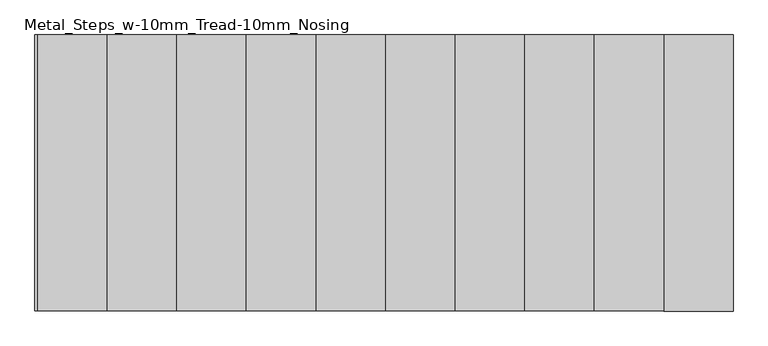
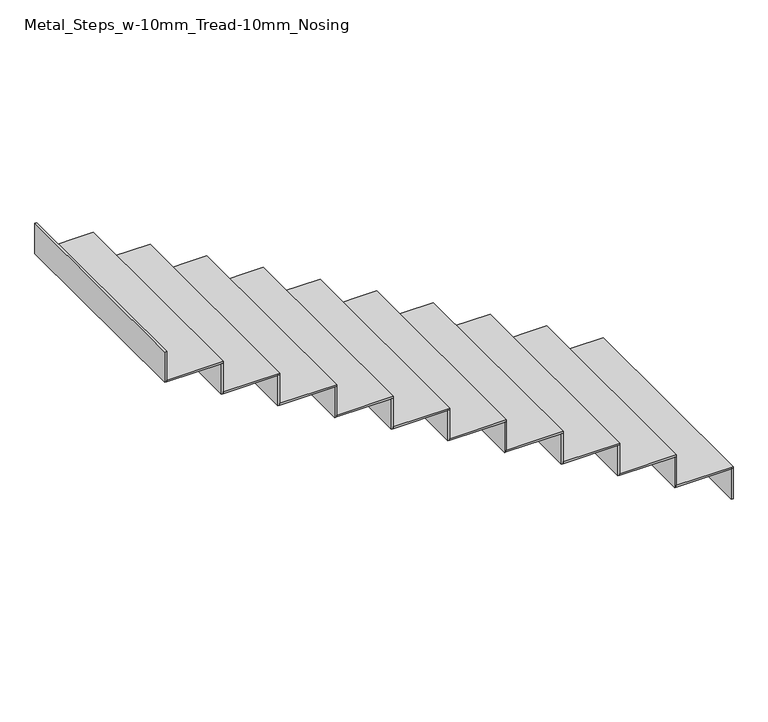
"""IFC4 building model written with IfcOpenShell, lengths in millimetres: stair flight geometry, Metal_Steps_w-10mm_Tread-10mm_Nosing."""

from ifc_helpers import new_model, si_unit, frame, origin, place, context, project, spatial, polyline, outline, extrude, source, transform, mapped, element, save


def metal_steps_w_10mm_tread_10mm_nosing_cab76adb(model_context):
    return source(origin(), model_context, "Body", "SweptSolid", [
        extrude(outline(polyline([(2188.5041438, 12254.6238126), (2198.5041438, 12254.6238126), (2198.5041438, 11064.6238126), (2188.5041438, 11064.6238126), (2188.5041438, 12254.6238126)])), frame((0.0, 0.0, 9375.0), z_axis=(0.0, 0.0, 1.0), x_axis=(1.0, 0.0, 0.0)), (0.0, 0.0, 1.0), 170.4545455),
        extrude(outline(polyline([(1898.5041438, 11064.6238126), (1898.5041438, 12254.6238126), (2198.5041438, 12254.6238126), (2198.5041438, 11064.6238126), (1898.5041438, 11064.6238126)])), frame((0.0, 0.0, 9545.4545455), z_axis=(0.0, 0.0, 1.0), x_axis=(1.0, 0.0, 0.0)), (0.0, 0.0, 1.0), 10.0),
        extrude(outline(polyline([(1888.5041438, 12254.6238126), (1898.5041438, 12254.6238126), (1898.5041438, 11064.6238126), (1888.5041438, 11064.6238126), (1888.5041438, 12254.6238126)])), frame((0.0, 0.0, 9545.4545455), z_axis=(0.0, 0.0, 1.0), x_axis=(1.0, 0.0, 0.0)), (0.0, 0.0, 1.0), 170.4545455),
        extrude(outline(polyline([(1598.5041438, 11064.6238126), (1598.5041438, 12254.6238126), (1898.5041438, 12254.6238126), (1898.5041438, 11064.6238126), (1598.5041438, 11064.6238126)])), frame((0.0, 0.0, 9715.9090909), z_axis=(0.0, 0.0, 1.0), x_axis=(1.0, 0.0, 0.0)), (0.0, 0.0, 1.0), 10.0),
        extrude(outline(polyline([(1588.5041438, 12254.6238126), (1598.5041438, 12254.6238126), (1598.5041438, 11064.6238126), (1588.5041438, 11064.6238126), (1588.5041438, 12254.6238126)])), frame((0.0, 0.0, 9715.9090909), z_axis=(0.0, 0.0, 1.0), x_axis=(1.0, 0.0, 0.0)), (0.0, 0.0, 1.0), 170.4545455),
        extrude(outline(polyline([(1298.5041438, 11064.6238126), (1298.5041438, 12254.6238126), (1598.5041438, 12254.6238126), (1598.5041438, 11064.6238126), (1298.5041438, 11064.6238126)])), frame((0.0, 0.0, 9886.3636364), z_axis=(0.0, 0.0, 1.0), x_axis=(1.0, 0.0, 0.0)), (0.0, 0.0, 1.0), 10.0),
        extrude(outline(polyline([(1288.5041438, 12254.6238126), (1298.5041438, 12254.6238126), (1298.5041438, 11064.6238126), (1288.5041438, 11064.6238126), (1288.5041438, 12254.6238126)])), frame((0.0, 0.0, 9886.3636364), z_axis=(0.0, 0.0, 1.0), x_axis=(1.0, 0.0, 0.0)), (0.0, 0.0, 1.0), 170.4545455),
        extrude(outline(polyline([(998.5041438, 11064.6238126), (998.5041438, 12254.6238126), (1298.5041438, 12254.6238126), (1298.5041438, 11064.6238126), (998.5041438, 11064.6238126)])), frame((0.0, 0.0, 10056.8181818), z_axis=(0.0, 0.0, 1.0), x_axis=(1.0, 0.0, 0.0)), (0.0, 0.0, 1.0), 10.0),
        extrude(outline(polyline([(988.5041438, 12254.6238126), (998.5041438, 12254.6238126), (998.5041438, 11064.6238126), (988.5041438, 11064.6238126), (988.5041438, 12254.6238126)])), frame((0.0, 0.0, 10056.8181818), z_axis=(0.0, 0.0, 1.0), x_axis=(1.0, 0.0, 0.0)), (0.0, 0.0, 1.0), 170.4545455),
        extrude(outline(polyline([(698.5041438, 11064.6238126), (698.5041438, 12254.6238126), (998.5041438, 12254.6238126), (998.5041438, 11064.6238126), (698.5041438, 11064.6238126)])), frame((0.0, 0.0, 10227.2727273), z_axis=(0.0, 0.0, 1.0), x_axis=(1.0, 0.0, 0.0)), (0.0, 0.0, 1.0), 10.0),
        extrude(outline(polyline([(688.5041438, 12254.6238126), (698.5041438, 12254.6238126), (698.5041438, 11064.6238126), (688.5041438, 11064.6238126), (688.5041438, 12254.6238126)])), frame((0.0, 0.0, 10227.2727273), z_axis=(0.0, 0.0, 1.0), x_axis=(1.0, 0.0, 0.0)), (0.0, 0.0, 1.0), 170.4545455),
        extrude(outline(polyline([(398.5041438, 11064.6238126), (398.5041438, 12254.6238126), (698.5041438, 12254.6238126), (698.5041438, 11064.6238126), (398.5041438, 11064.6238126)])), frame((0.0, 0.0, 10397.7272727), z_axis=(0.0, 0.0, 1.0), x_axis=(1.0, 0.0, 0.0)), (0.0, 0.0, 1.0), 10.0),
        extrude(outline(polyline([(388.5041438, 12254.6238126), (398.5041438, 12254.6238126), (398.5041438, 11064.6238126), (388.5041438, 11064.6238126), (388.5041438, 12254.6238126)])), frame((0.0, 0.0, 10397.7272727), z_axis=(0.0, 0.0, 1.0), x_axis=(1.0, 0.0, 0.0)), (0.0, 0.0, 1.0), 170.4545455),
        extrude(outline(polyline([(98.5041438, 11064.6238126), (98.5041438, 12254.6238126), (398.5041438, 12254.6238126), (398.5041438, 11064.6238126), (98.5041438, 11064.6238126)])), frame((0.0, 0.0, 10568.1818182), z_axis=(0.0, 0.0, 1.0), x_axis=(1.0, 0.0, 0.0)), (0.0, 0.0, 1.0), 10.0),
        extrude(outline(polyline([(88.5041438, 12254.6238126), (98.5041438, 12254.6238126), (98.5041438, 11064.6238126), (88.5041438, 11064.6238126), (88.5041438, 12254.6238126)])), frame((0.0, 0.0, 10568.1818182), z_axis=(0.0, 0.0, 1.0), x_axis=(1.0, 0.0, 0.0)), (0.0, 0.0, 1.0), 170.4545455),
        extrude(outline(polyline([(-201.4958562, 11064.6238126), (-201.4958562, 12254.6238126), (98.5041438, 12254.6238126), (98.5041438, 11064.6238126), (-201.4958562, 11064.6238126)])), frame((0.0, 0.0, 10738.6363636), z_axis=(0.0, 0.0, 1.0), x_axis=(1.0, 0.0, 0.0)), (0.0, 0.0, 1.0), 10.0),
        extrude(outline(polyline([(-211.4958562, 12254.6238126), (-201.4958562, 12254.6238126), (-201.4958562, 11064.6238126), (-211.4958562, 11064.6238126), (-211.4958562, 12254.6238126)])), frame((0.0, 0.0, 10738.6363636), z_axis=(0.0, 0.0, 1.0), x_axis=(1.0, 0.0, 0.0)), (0.0, 0.0, 1.0), 170.4545455),
        extrude(outline(polyline([(-501.4958562, 11064.6238126), (-501.4958562, 12254.6238126), (-201.4958562, 12254.6238126), (-201.4958562, 11064.6238126), (-501.4958562, 11064.6238126)])), frame((0.0, 0.0, 10909.0909091), z_axis=(0.0, 0.0, 1.0), x_axis=(1.0, 0.0, 0.0)), (0.0, 0.0, 1.0), 10.0),
        extrude(outline(polyline([(-511.4958562, 12254.6238126), (-501.4958562, 12254.6238126), (-501.4958562, 11064.6238126), (-511.4958562, 11064.6238126), (-511.4958562, 12254.6238126)])), frame((0.0, 0.0, 10909.0909091), z_axis=(0.0, 0.0, 1.0), x_axis=(1.0, 0.0, 0.0)), (0.0, 0.0, 1.0), 170.4545455),
        extrude(outline(polyline([(-811.4958562, 12254.6238126), (-801.4958562, 12254.6238126), (-801.4958562, 11064.6238126), (-811.4958562, 11064.6238126), (-811.4958562, 12254.6238126)])), frame((0.0, 0.0, 11079.5454545), z_axis=(0.0, 0.0, 1.0), x_axis=(1.0, 0.0, 0.0)), (0.0, 0.0, 1.0), 170.4545455),
        extrude(outline(polyline([(-801.4958562, 11064.6238126), (-801.4958562, 12254.6238126), (-501.4958562, 12254.6238126), (-501.4958562, 11064.6238126), (-801.4958562, 11064.6238126)])), frame((0.0, 0.0, 11079.5454545), z_axis=(0.0, 0.0, 1.0), x_axis=(1.0, 0.0, 0.0)), (0.0, 0.0, 1.0), 10.0),
    ])


if __name__ == "__main__":
    model = new_model("IFC4")
    model_context = context("Model", 3, world=origin())
    ifc_project = project(units=[si_unit("LENGTHUNIT", "METRE", prefix="MILLI")], contexts=[model_context])
    site = spatial("IfcSite", under=ifc_project)
    building = spatial("IfcBuilding", under=site)
    placement = place(None, origin())
    metal_steps_w_10mm_tread_10mm_nosing_shape = metal_steps_w_10mm_tread_10mm_nosing_cab76adb(model_context)
    element("IfcStairFlight", 1, ObjectType="Metal_Steps_w-10mm_Tread-10mm_Nosing", at=placement, inside=building, context=model_context, shape_type="MappedRepresentation", body=[
        mapped(metal_steps_w_10mm_tread_10mm_nosing_shape, transform((0.0, 0.0, 0.0), x_axis=(1.0, 0.0, 0.0), y_axis=(0.0, 1.0, 0.0), z_axis=(0.0, 0.0, 1.0))),
    ])
    save(model, "model.ifc")
